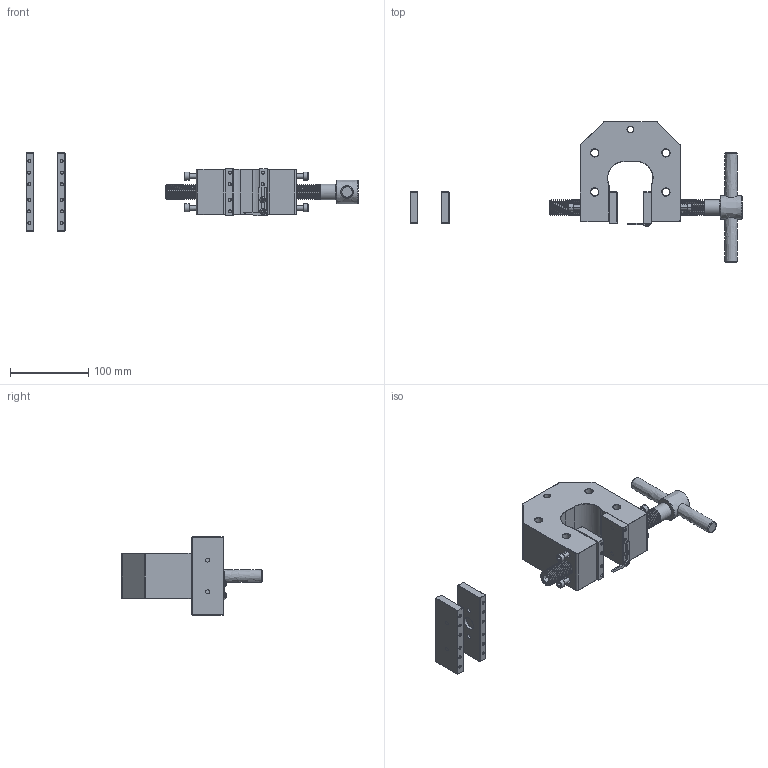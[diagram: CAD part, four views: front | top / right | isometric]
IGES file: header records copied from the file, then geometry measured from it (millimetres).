
Global section: file name: G1100 MODEL; native system: AutoCAD 2017 - English; preprocessor: Autodesk Translation Framework DWG producer (atf_dwg_producer); organization: unknown; date: 20171128.172238; units: inch
Bounding box: 424.36 x 179.95 x 99.82 mm (x, y, z)
Volume: 819786.4 mm3; surface area: 147175.1 mm2
Topology: 12 solids, 12 shells, 987 faces, 2972 edges, 2062 vertices
Faces by surface type: bspline 987
